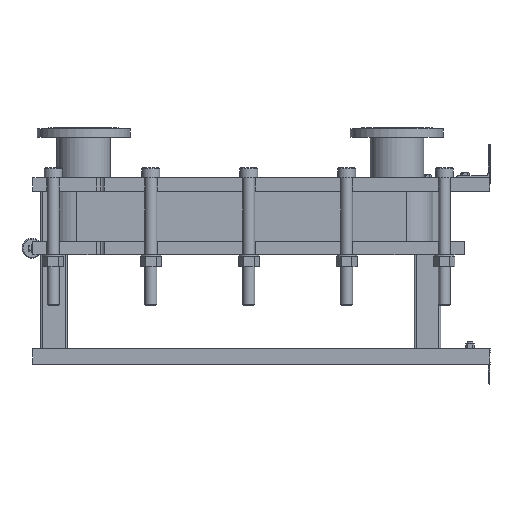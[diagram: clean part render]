
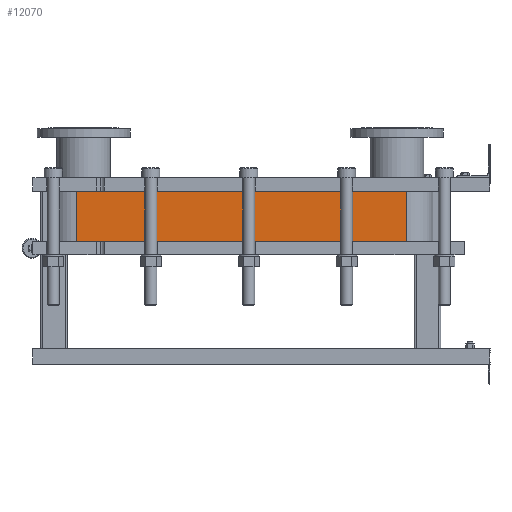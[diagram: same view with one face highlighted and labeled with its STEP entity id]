
A CAD part, left-side view. The second image highlights one B-rep face of the part: STEP entity #12070.
In plain terms, the highlighted planar face has unit normal (-1, 0, 0).
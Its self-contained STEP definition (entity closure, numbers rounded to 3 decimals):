
#1064=LINE('',#21140,#2164);
#1065=LINE('',#21144,#2165);
#1066=LINE('',#21146,#2166);
#1067=LINE('',#21147,#2167);
#2164=VECTOR('',#15790,10.);
#2165=VECTOR('',#15795,10.);
#2166=VECTOR('',#15796,10.);
#2167=VECTOR('',#15797,10.);
#3304=FACE_OUTER_BOUND('',#4091,.T.);
#4091=EDGE_LOOP('',(#9793,#9794,#9795,#9796));
#5677=VERTEX_POINT('',#21137);
#5678=VERTEX_POINT('',#21139);
#5679=VERTEX_POINT('',#21143);
#5680=VERTEX_POINT('',#21145);
#7118=EDGE_CURVE('',#5678,#5677,#1064,.T.);
#7120=EDGE_CURVE('',#5677,#5679,#1065,.T.);
#7121=EDGE_CURVE('',#5680,#5679,#1066,.T.);
#7122=EDGE_CURVE('',#5680,#5678,#1067,.T.);
#9793=ORIENTED_EDGE('',*,*,#7120,.T.);
#9794=ORIENTED_EDGE('',*,*,#7121,.F.);
#9795=ORIENTED_EDGE('',*,*,#7122,.T.);
#9796=ORIENTED_EDGE('',*,*,#7118,.T.);
#11441=PLANE('',#13191);
#12070=ADVANCED_FACE('',(#3304),#11441,.T.);
#13191=AXIS2_PLACEMENT_3D('',#21142,#15793,#15794);
#15790=DIRECTION('',(0.,0.,-1.));
#15793=DIRECTION('center_axis',(-1.,0.,0.));
#15794=DIRECTION('ref_axis',(0.,1.,0.));
#15795=DIRECTION('',(0.,-1.,0.));
#15796=DIRECTION('',(0.,0.,-1.));
#15797=DIRECTION('',(0.,1.,0.));
#21137=CARTESIAN_POINT('',(-248.152,1243.818,-151.8));
#21139=CARTESIAN_POINT('',(-248.152,1243.818,0.));
#21140=CARTESIAN_POINT('',(-248.152,1243.818,0.));
#21142=CARTESIAN_POINT('Origin',(-248.152,251.818,0.));
#21143=CARTESIAN_POINT('',(-248.152,251.818,-151.8));
#21144=CARTESIAN_POINT('',(-248.152,499.818,-151.8));
#21145=CARTESIAN_POINT('',(-248.152,251.818,0.));
#21146=CARTESIAN_POINT('',(-248.152,251.818,0.));
#21147=CARTESIAN_POINT('',(-248.152,251.818,0.));
